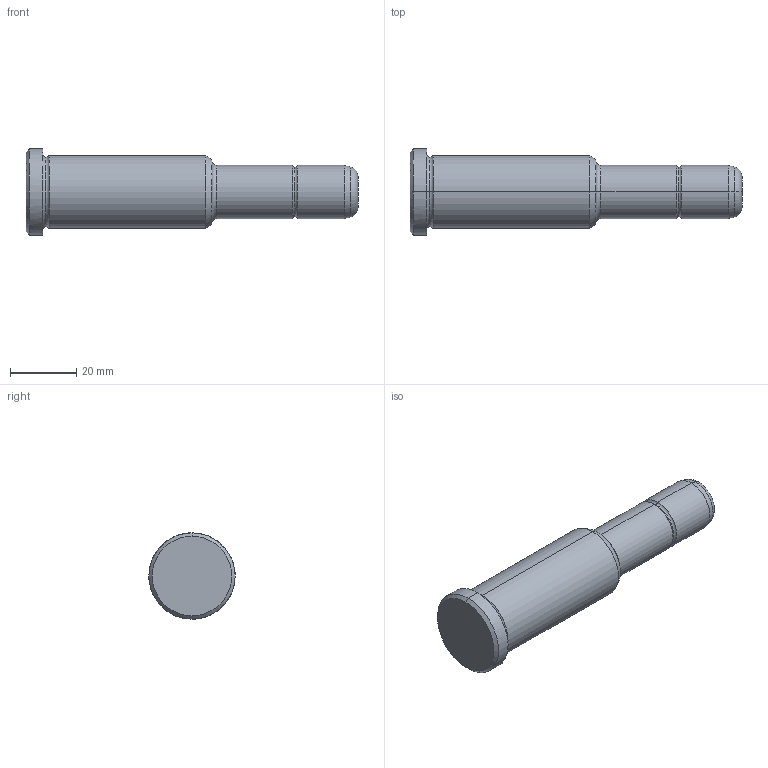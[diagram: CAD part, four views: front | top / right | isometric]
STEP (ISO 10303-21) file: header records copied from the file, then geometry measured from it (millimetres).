
FILE_DESCRIPTION(('CATIA V5 STEP Exchange'),'2;1');
FILE_NAME('C:\Users\Utente\Desktop\IO LAVORO\3D X SITO CF\X SITO\PLASTICA\351\351-16X56X100.stp','2021-08-18T12:25:24+00:00',('none'),('none'),'CATIA Version 5 Release 20 GA (IN-10)','CATIA V5 STEP AP203','none');
FILE_SCHEMA(('CONFIG_CONTROL_DESIGN'));
Length unit declared in the file: millimetre
Products named in the file (1): 351-16X56X100
Bounding box: 100 x 26 x 26 mm (x, y, z)
Volume: 30576.6 mm3; surface area: 7010 mm2
Topology: 1 solids, 1 shells, 30 faces, 86 edges, 60 vertices
Faces by surface type: torus 12, cylinder 8, cone 6, plane 4
Entity records: 1112 total; most frequent: CARTESIAN_POINT 289, ORIENTED_EDGE 172, DIRECTION 138, AXIS2_PLACEMENT_3D 95, EDGE_CURVE 86, CIRCLE 64, VERTEX_POINT 60, EDGE_LOOP 32
